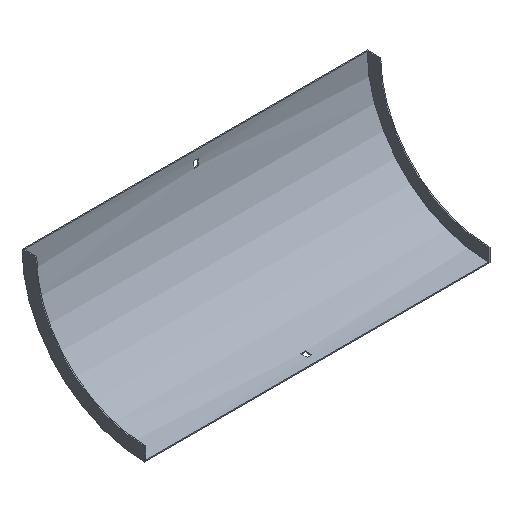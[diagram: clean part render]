
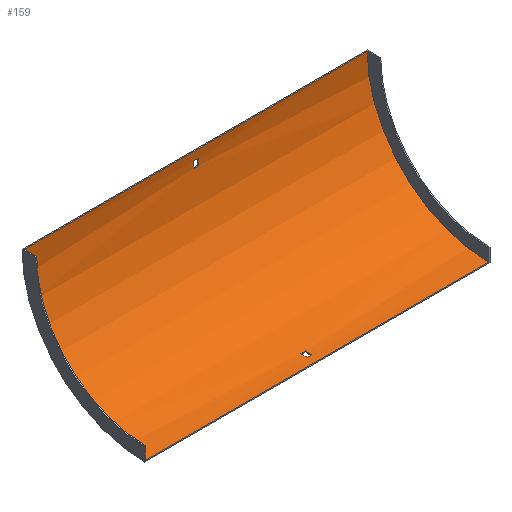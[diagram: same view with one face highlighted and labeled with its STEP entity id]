
A CAD part, isometric view. The second image highlights one B-rep face of the part: STEP entity #159.
In plain terms, the highlighted cylindrical face has radius 179 mm (diameter 358 mm), a partial arc.
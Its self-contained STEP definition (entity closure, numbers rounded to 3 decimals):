
#10 = DIRECTION ( 'NONE',  ( -1., 0., 0. ) ) ;
#11 = DIRECTION ( 'NONE',  ( -1., 0., 0. ) ) ;
#15 = EDGE_CURVE ( 'NONE', #217, #350, #332, .T. ) ;
#18 = VERTEX_POINT ( 'NONE', #202 ) ;
#20 = DIRECTION ( 'NONE',  ( 0., 0., 1. ) ) ;
#25 = EDGE_LOOP ( 'NONE', ( #287, #408, #127, #587 ) ) ;
#26 = EDGE_CURVE ( 'NONE', #199, #18, #508, .T. ) ;
#30 = DIRECTION ( 'NONE',  ( 0., 0., -1. ) ) ;
#35 = EDGE_CURVE ( 'NONE', #204, #269, #58, .T. ) ;
#46 = CARTESIAN_POINT ( 'NONE',  ( 252., -1.5, 0. ) ) ;
#47 = DIRECTION ( 'NONE',  ( 1., 0., 0. ) ) ;
#48 = CARTESIAN_POINT ( 'NONE',  ( -252., -1.5, 0. ) ) ;
#50 = CARTESIAN_POINT ( 'NONE',  ( 253.5, -159.5, -177.764 ) ) ;
#55 = AXIS2_PLACEMENT_3D ( 'NONE', #442, #311, #92 ) ;
#56 = CIRCLE ( 'NONE', #556, 179. ) ;
#58 = LINE ( 'NONE', #155, #316 ) ;
#60 = EDGE_CURVE ( 'NONE', #18, #537, #569, .T. ) ;
#61 = CARTESIAN_POINT ( 'NONE',  ( 3.25, -168.5, -178.597 ) ) ;
#64 = DIRECTION ( 'NONE',  ( 0., 0., 1. ) ) ;
#70 = CARTESIAN_POINT ( 'NONE',  ( 3.25, -1.903, -12. ) ) ;
#82 = LINE ( 'NONE', #453, #457 ) ;
#89 = CARTESIAN_POINT ( 'NONE',  ( -3.25, -1.903, -12. ) ) ;
#92 = DIRECTION ( 'NONE',  ( 0., 0., 1. ) ) ;
#114 = VERTEX_POINT ( 'NONE', #61 ) ;
#116 = CARTESIAN_POINT ( 'NONE',  ( 253.5, -180.5, 0. ) ) ;
#127 = ORIENTED_EDGE ( 'NONE', *, *, #307, .F. ) ;
#139 = ORIENTED_EDGE ( 'NONE', *, *, #186, .T. ) ;
#146 = AXIS2_PLACEMENT_3D ( 'NONE', #116, #430, #20 ) ;
#152 = EDGE_CURVE ( 'NONE', #269, #441, #592, .T. ) ;
#155 = CARTESIAN_POINT ( 'NONE',  ( 252., -180.5, -179. ) ) ;
#159 = ADVANCED_FACE ( 'NONE', ( #206, #161, #388 ), #530, .F. ) ;
#160 = DIRECTION ( 'NONE',  ( 0., 0., -1. ) ) ;
#161 = FACE_OUTER_BOUND ( 'NONE', #606, .T. ) ;
#165 = VECTOR ( 'NONE', #261, 1000. ) ;
#177 = CARTESIAN_POINT ( 'NONE',  ( -3.25, -180.5, 0. ) ) ;
#179 = CARTESIAN_POINT ( 'NONE',  ( 252., -180.5, 0. ) ) ;
#183 = AXIS2_PLACEMENT_3D ( 'NONE', #179, #596, #409 ) ;
#186 = EDGE_CURVE ( 'NONE', #350, #114, #584, .T. ) ;
#195 = CIRCLE ( 'NONE', #489, 179. ) ;
#199 = VERTEX_POINT ( 'NONE', #89 ) ;
#202 = CARTESIAN_POINT ( 'NONE',  ( -3.25, -2.736, -21. ) ) ;
#204 = VERTEX_POINT ( 'NONE', #275 ) ;
#206 = FACE_BOUND ( 'NONE', #25, .T. ) ;
#216 = CARTESIAN_POINT ( 'NONE',  ( 3.25, -2.736, -21. ) ) ;
#217 = VERTEX_POINT ( 'NONE', #455 ) ;
#222 = CARTESIAN_POINT ( 'NONE',  ( 253.5, -1.903, -12. ) ) ;
#226 = DIRECTION ( 'NONE',  ( -1., 0., 0. ) ) ;
#227 = EDGE_CURVE ( 'NONE', #558, #441, #82, .T. ) ;
#228 = VECTOR ( 'NONE', #285, 1000. ) ;
#244 = CARTESIAN_POINT ( 'NONE',  ( 3.25, -159.5, -177.764 ) ) ;
#249 = DIRECTION ( 'NONE',  ( 1., 0., 0. ) ) ;
#260 = EDGE_LOOP ( 'NONE', ( #399, #393, #352, #139 ) ) ;
#261 = DIRECTION ( 'NONE',  ( -1., 0., 0. ) ) ;
#269 = VERTEX_POINT ( 'NONE', #324 ) ;
#271 = EDGE_CURVE ( 'NONE', #204, #558, #534, .T. ) ;
#275 = CARTESIAN_POINT ( 'NONE',  ( 252., -180.5, -179. ) ) ;
#276 = EDGE_CURVE ( 'NONE', #440, #217, #195, .T. ) ;
#278 = ORIENTED_EDGE ( 'NONE', *, *, #35, .F. ) ;
#285 = DIRECTION ( 'NONE',  ( 1., 0., 0. ) ) ;
#287 = ORIENTED_EDGE ( 'NONE', *, *, #26, .F. ) ;
#289 = CARTESIAN_POINT ( 'NONE',  ( 3.25, -180.5, 0. ) ) ;
#299 = LINE ( 'NONE', #222, #165 ) ;
#300 = ORIENTED_EDGE ( 'NONE', *, *, #227, .T. ) ;
#307 = EDGE_CURVE ( 'NONE', #537, #552, #56, .T. ) ;
#311 = DIRECTION ( 'NONE',  ( -1., 0., 0. ) ) ;
#316 = VECTOR ( 'NONE', #472, 1000. ) ;
#324 = CARTESIAN_POINT ( 'NONE',  ( -252., -180.5, -179. ) ) ;
#327 = DIRECTION ( 'NONE',  ( 0., 0., 1. ) ) ;
#332 = LINE ( 'NONE', #50, #228 ) ;
#350 = VERTEX_POINT ( 'NONE', #244 ) ;
#352 = ORIENTED_EDGE ( 'NONE', *, *, #15, .T. ) ;
#364 = ORIENTED_EDGE ( 'NONE', *, *, #152, .F. ) ;
#377 = LINE ( 'NONE', #523, #431 ) ;
#383 = DIRECTION ( 'NONE',  ( 1., 0., 0. ) ) ;
#388 = FACE_BOUND ( 'NONE', #260, .T. ) ;
#393 = ORIENTED_EDGE ( 'NONE', *, *, #276, .T. ) ;
#395 = EDGE_CURVE ( 'NONE', #114, #440, #377, .T. ) ;
#399 = ORIENTED_EDGE ( 'NONE', *, *, #395, .T. ) ;
#408 = ORIENTED_EDGE ( 'NONE', *, *, #485, .F. ) ;
#409 = DIRECTION ( 'NONE',  ( 0., 0., 1. ) ) ;
#430 = DIRECTION ( 'NONE',  ( -1., 0., 0. ) ) ;
#431 = VECTOR ( 'NONE', #10, 1000. ) ;
#440 = VERTEX_POINT ( 'NONE', #462 ) ;
#441 = VERTEX_POINT ( 'NONE', #48 ) ;
#442 = CARTESIAN_POINT ( 'NONE',  ( 3.25, -180.5, 0. ) ) ;
#453 = CARTESIAN_POINT ( 'NONE',  ( 252., -1.5, 0. ) ) ;
#455 = CARTESIAN_POINT ( 'NONE',  ( -3.25, -159.5, -177.764 ) ) ;
#457 = VECTOR ( 'NONE', #226, 1000. ) ;
#462 = CARTESIAN_POINT ( 'NONE',  ( -3.25, -168.5, -178.597 ) ) ;
#472 = DIRECTION ( 'NONE',  ( -1., 0., 0. ) ) ;
#475 = CARTESIAN_POINT ( 'NONE',  ( -3.25, -180.5, 0. ) ) ;
#485 = EDGE_CURVE ( 'NONE', #552, #199, #299, .T. ) ;
#489 = AXIS2_PLACEMENT_3D ( 'NONE', #177, #507, #30 ) ;
#500 = ORIENTED_EDGE ( 'NONE', *, *, #271, .T. ) ;
#507 = DIRECTION ( 'NONE',  ( 1., 0., 0. ) ) ;
#508 = CIRCLE ( 'NONE', #533, 179. ) ;
#520 = AXIS2_PLACEMENT_3D ( 'NONE', #579, #249, #64 ) ;
#523 = CARTESIAN_POINT ( 'NONE',  ( 253.5, -168.5, -178.597 ) ) ;
#527 = CARTESIAN_POINT ( 'NONE',  ( 253.5, -2.736, -21. ) ) ;
#530 = CYLINDRICAL_SURFACE ( 'NONE', #146, 179. ) ;
#533 = AXIS2_PLACEMENT_3D ( 'NONE', #475, #11, #327 ) ;
#534 = CIRCLE ( 'NONE', #183, 179. ) ;
#537 = VERTEX_POINT ( 'NONE', #216 ) ;
#552 = VERTEX_POINT ( 'NONE', #70 ) ;
#556 = AXIS2_PLACEMENT_3D ( 'NONE', #289, #383, #160 ) ;
#558 = VERTEX_POINT ( 'NONE', #46 ) ;
#565 = VECTOR ( 'NONE', #47, 1000. ) ;
#569 = LINE ( 'NONE', #527, #565 ) ;
#579 = CARTESIAN_POINT ( 'NONE',  ( -252., -180.5, 0. ) ) ;
#584 = CIRCLE ( 'NONE', #55, 179. ) ;
#587 = ORIENTED_EDGE ( 'NONE', *, *, #60, .F. ) ;
#592 = CIRCLE ( 'NONE', #520, 179. ) ;
#596 = DIRECTION ( 'NONE',  ( 1., 0., 0. ) ) ;
#606 = EDGE_LOOP ( 'NONE', ( #364, #278, #500, #300 ) ) ;
